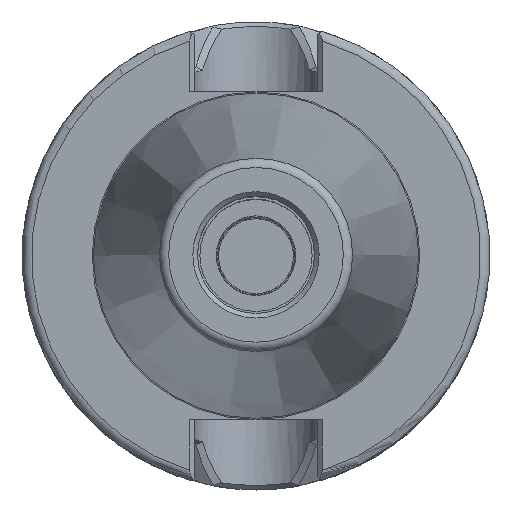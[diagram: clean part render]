
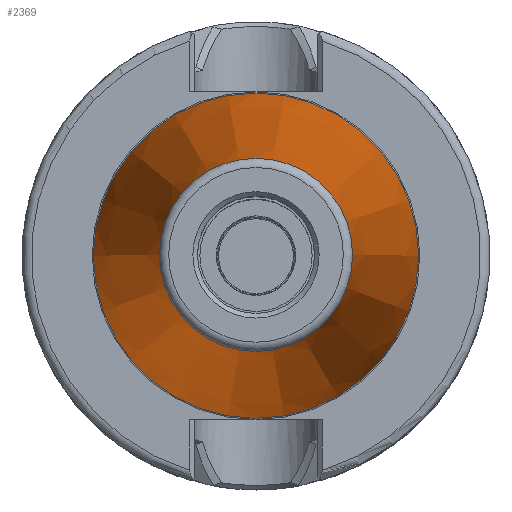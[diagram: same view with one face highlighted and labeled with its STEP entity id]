
A CAD part, top view. The second image highlights one B-rep face of the part: STEP entity #2369.
In plain terms, the highlighted conical face has half-angle 7.931 degrees and reference radius 27.575 mm.
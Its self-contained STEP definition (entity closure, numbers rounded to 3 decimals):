
#93=CONICAL_SURFACE('',#2617,27.575,0.138);
#271=LINE('',#4644,#435);
#435=VECTOR('',#3136,27.575);
#636=FACE_OUTER_BOUND('',#771,.T.);
#771=EDGE_LOOP('',(#2153,#2154,#2155,#2156,#2157,#2158));
#871=CIRCLE('',#2615,20.64);
#872=CIRCLE('',#2616,20.64);
#873=CIRCLE('',#2618,34.75);
#874=CIRCLE('',#2619,34.75);
#1183=VERTEX_POINT('',#4637);
#1184=VERTEX_POINT('',#4639);
#1185=VERTEX_POINT('',#4643);
#1186=VERTEX_POINT('',#4645);
#1515=EDGE_CURVE('',#1183,#1184,#871,.T.);
#1516=EDGE_CURVE('',#1184,#1183,#872,.T.);
#1517=EDGE_CURVE('',#1183,#1185,#271,.T.);
#1518=EDGE_CURVE('',#1185,#1186,#873,.T.);
#1519=EDGE_CURVE('',#1186,#1185,#874,.T.);
#2153=ORIENTED_EDGE('',*,*,#1516,.F.);
#2154=ORIENTED_EDGE('',*,*,#1515,.F.);
#2155=ORIENTED_EDGE('',*,*,#1517,.T.);
#2156=ORIENTED_EDGE('',*,*,#1518,.T.);
#2157=ORIENTED_EDGE('',*,*,#1519,.T.);
#2158=ORIENTED_EDGE('',*,*,#1517,.F.);
#2369=ADVANCED_FACE('',(#636),#93,.T.);
#2615=AXIS2_PLACEMENT_3D('',#4640,#3130,#3131);
#2616=AXIS2_PLACEMENT_3D('',#4641,#3132,#3133);
#2617=AXIS2_PLACEMENT_3D('',#4642,#3134,#3135);
#2618=AXIS2_PLACEMENT_3D('',#4646,#3137,#3138);
#2619=AXIS2_PLACEMENT_3D('',#4647,#3139,#3140);
#3130=DIRECTION('center_axis',(0.,0.,1.));
#3131=DIRECTION('ref_axis',(-1.,0.,0.));
#3132=DIRECTION('center_axis',(0.,0.,1.));
#3133=DIRECTION('ref_axis',(-1.,0.,0.));
#3134=DIRECTION('center_axis',(0.,0.,-1.));
#3135=DIRECTION('ref_axis',(1.,0.,0.));
#3136=DIRECTION('',(-0.138,0.,-0.99));
#3137=DIRECTION('center_axis',(0.,0.,1.));
#3138=DIRECTION('ref_axis',(1.,0.,0.));
#3139=DIRECTION('center_axis',(0.,0.,1.));
#3140=DIRECTION('ref_axis',(1.,0.,0.));
#4637=CARTESIAN_POINT('',(-20.64,0.,-1.724));
#4639=CARTESIAN_POINT('',(20.64,0.,-1.724));
#4640=CARTESIAN_POINT('Origin',(0.,0.,
-1.724));
#4641=CARTESIAN_POINT('Origin',(0.,0.,
-1.724));
#4642=CARTESIAN_POINT('Origin',(0.,0.,-51.5));
#4643=CARTESIAN_POINT('',(-34.75,0.,-103.));
#4644=CARTESIAN_POINT('',(-27.575,0.,-51.5));
#4645=CARTESIAN_POINT('',(34.75,0.,-103.));
#4646=CARTESIAN_POINT('Origin',(0.,0.,-103.));
#4647=CARTESIAN_POINT('Origin',(0.,0.,-103.));
